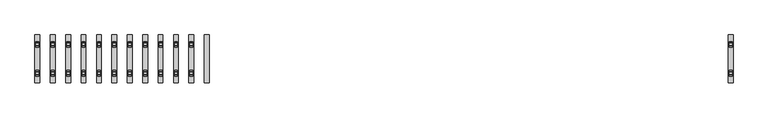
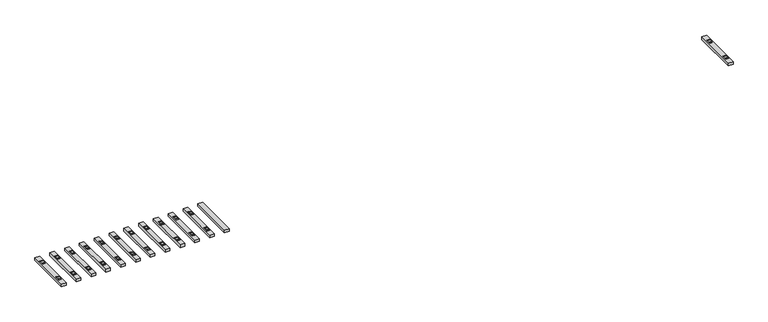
"""IFC4 building model written with IfcOpenShell, lengths in millimetres: railing geometry, Koleje."""

from ifc_helpers import new_model, si_unit, frame, origin, place, context, project, spatial, polyline, outline, extrude, source, transform, mapped, element, save


def railing_31aec477(model_context):
    return source(origin(), model_context, "Body", "SweptSolid", [
        extrude(outline(polyline([(35642.1796907, 27440.7955787), (35892.1796907, 27440.7955787), (35892.1796907, 24940.7955787), (35642.1796907, 24940.7955787), (35642.1796907, 27440.7955787)])), frame((0.0, 0.0, -150.0), z_axis=(0.0, 0.0, 1.0), x_axis=(1.0, 0.0, 0.0)), (0.0, 0.0, 1.0), 150.0),
        extrude(outline(polyline([(27095.2955787, 0.0), (26795.2955787, 0.0), (26795.2955787, 7.5), (26855.2955787, 15.0), (26870.2955787, 30.0), (26870.2955787, 15.0), (27020.2955787, 15.0), (27020.2955787, 30.0), (27035.2955787, 15.0), (27095.2955787, 7.5), (27095.2955787, 0.0)])), frame((34885.5130241, 0.0, 0.0), z_axis=(1.0, 0.0, 0.0), x_axis=(0.0, 1.0, 0.0)), (0.0, 0.0, 1.0), 150.0),
        extrude(outline(polyline([(25586.2955787, 0.0), (25286.2955787, 0.0), (25286.2955787, 7.5), (25346.2955787, 15.0), (25361.2955787, 30.0), (25361.2955787, 15.0), (25511.2955787, 15.0), (25511.2955787, 30.0), (25526.2955787, 15.0), (25586.2955787, 7.5), (25586.2955787, 0.0)])), frame((34885.5130241, 0.0, 0.0), z_axis=(1.0, 0.0, 0.0), x_axis=(0.0, 1.0, 0.0)), (0.0, 0.0, 1.0), 150.0),
        extrude(outline(polyline([(34835.5130241, 27440.7955787), (35085.5130241, 27440.7955787), (35085.5130241, 24940.7955787), (34835.5130241, 24940.7955787), (34835.5130241, 27440.7955787)])), frame((0.0, 0.0, -150.0), z_axis=(0.0, 0.0, 1.0), x_axis=(1.0, 0.0, 0.0)), (0.0, 0.0, 1.0), 150.0),
        extrude(outline(polyline([(27095.2955787, 0.0), (26795.2955787, 0.0), (26795.2955787, 7.5), (26855.2955787, 15.0), (26870.2955787, 30.0), (26870.2955787, 15.0), (27020.2955787, 15.0), (27020.2955787, 30.0), (27035.2955787, 15.0), (27095.2955787, 7.5), (27095.2955787, 0.0)])), frame((34078.8463574, 0.0, 0.0), z_axis=(1.0, 0.0, 0.0), x_axis=(0.0, 1.0, 0.0)), (0.0, 0.0, 1.0), 150.0),
        extrude(outline(polyline([(25586.2955787, 0.0), (25286.2955787, 0.0), (25286.2955787, 7.5), (25346.2955787, 15.0), (25361.2955787, 30.0), (25361.2955787, 15.0), (25511.2955787, 15.0), (25511.2955787, 30.0), (25526.2955787, 15.0), (25586.2955787, 7.5), (25586.2955787, 0.0)])), frame((34078.8463574, 0.0, 0.0), z_axis=(1.0, 0.0, 0.0), x_axis=(0.0, 1.0, 0.0)), (0.0, 0.0, 1.0), 150.0),
        extrude(outline(polyline([(34028.8463574, 27440.7955787), (34278.8463574, 27440.7955787), (34278.8463574, 24940.7955787), (34028.8463574, 24940.7955787), (34028.8463574, 27440.7955787)])), frame((0.0, 0.0, -150.0), z_axis=(0.0, 0.0, 1.0), x_axis=(1.0, 0.0, 0.0)), (0.0, 0.0, 1.0), 150.0),
        extrude(outline(polyline([(27095.2955787, 0.0), (26795.2955787, 0.0), (26795.2955787, 7.5), (26855.2955787, 15.0), (26870.2955787, 30.0), (26870.2955787, 15.0), (27020.2955787, 15.0), (27020.2955787, 30.0), (27035.2955787, 15.0), (27095.2955787, 7.5), (27095.2955787, 0.0)])), frame((33272.1796907, 0.0, 0.0), z_axis=(1.0, 0.0, 0.0), x_axis=(0.0, 1.0, 0.0)), (0.0, 0.0, 1.0), 150.0),
        extrude(outline(polyline([(25586.2955787, 0.0), (25286.2955787, 0.0), (25286.2955787, 7.5), (25346.2955787, 15.0), (25361.2955787, 30.0), (25361.2955787, 15.0), (25511.2955787, 15.0), (25511.2955787, 30.0), (25526.2955787, 15.0), (25586.2955787, 7.5), (25586.2955787, 0.0)])), frame((33272.1796907, 0.0, 0.0), z_axis=(1.0, 0.0, 0.0), x_axis=(0.0, 1.0, 0.0)), (0.0, 0.0, 1.0), 150.0),
        extrude(outline(polyline([(33222.1796907, 27440.7955787), (33472.1796907, 27440.7955787), (33472.1796907, 24940.7955787), (33222.1796907, 24940.7955787), (33222.1796907, 27440.7955787)])), frame((0.0, 0.0, -150.0), z_axis=(0.0, 0.0, 1.0), x_axis=(1.0, 0.0, 0.0)), (0.0, 0.0, 1.0), 150.0),
        extrude(outline(polyline([(27095.2955787, 0.0), (26795.2955787, 0.0), (26795.2955787, 7.5), (26855.2955787, 15.0), (26870.2955787, 30.0), (26870.2955787, 15.0), (27020.2955787, 15.0), (27020.2955787, 30.0), (27035.2955787, 15.0), (27095.2955787, 7.5), (27095.2955787, 0.0)])), frame((32465.5130241, 0.0, 0.0), z_axis=(1.0, 0.0, 0.0), x_axis=(0.0, 1.0, 0.0)), (0.0, 0.0, 1.0), 150.0),
        extrude(outline(polyline([(25586.2955787, 0.0), (25286.2955787, 0.0), (25286.2955787, 7.5), (25346.2955787, 15.0), (25361.2955787, 30.0), (25361.2955787, 15.0), (25511.2955787, 15.0), (25511.2955787, 30.0), (25526.2955787, 15.0), (25586.2955787, 7.5), (25586.2955787, 0.0)])), frame((32465.5130241, 0.0, 0.0), z_axis=(1.0, 0.0, 0.0), x_axis=(0.0, 1.0, 0.0)), (0.0, 0.0, 1.0), 150.0),
        extrude(outline(polyline([(32415.5130241, 27440.7955787), (32665.5130241, 27440.7955787), (32665.5130241, 24940.7955787), (32415.5130241, 24940.7955787), (32415.5130241, 27440.7955787)])), frame((0.0, 0.0, -150.0), z_axis=(0.0, 0.0, 1.0), x_axis=(1.0, 0.0, 0.0)), (0.0, 0.0, 1.0), 150.0),
        extrude(outline(polyline([(27095.2955787, 0.0), (26795.2955787, 0.0), (26795.2955787, 7.5), (26855.2955787, 15.0), (26870.2955787, 30.0), (26870.2955787, 15.0), (27020.2955787, 15.0), (27020.2955787, 30.0), (27035.2955787, 15.0), (27095.2955787, 7.5), (27095.2955787, 0.0)])), frame((31658.8463574, 0.0, 0.0), z_axis=(1.0, 0.0, 0.0), x_axis=(0.0, 1.0, 0.0)), (0.0, 0.0, 1.0), 150.0),
        extrude(outline(polyline([(25586.2955787, 0.0), (25286.2955787, 0.0), (25286.2955787, 7.5), (25346.2955787, 15.0), (25361.2955787, 30.0), (25361.2955787, 15.0), (25511.2955787, 15.0), (25511.2955787, 30.0), (25526.2955787, 15.0), (25586.2955787, 7.5), (25586.2955787, 0.0)])), frame((31658.8463574, 0.0, 0.0), z_axis=(1.0, 0.0, 0.0), x_axis=(0.0, 1.0, 0.0)), (0.0, 0.0, 1.0), 150.0),
        extrude(outline(polyline([(31608.8463574, 27440.7955787), (31858.8463574, 27440.7955787), (31858.8463574, 24940.7955787), (31608.8463574, 24940.7955787), (31608.8463574, 27440.7955787)])), frame((0.0, 0.0, -150.0), z_axis=(0.0, 0.0, 1.0), x_axis=(1.0, 0.0, 0.0)), (0.0, 0.0, 1.0), 150.0),
        extrude(outline(polyline([(27095.2955787, 0.0), (26795.2955787, 0.0), (26795.2955787, 7.5), (26855.2955787, 15.0), (26870.2955787, 30.0), (26870.2955787, 15.0), (27020.2955787, 15.0), (27020.2955787, 30.0), (27035.2955787, 15.0), (27095.2955787, 7.5), (27095.2955787, 0.0)])), frame((30852.1796907, 0.0, 0.0), z_axis=(1.0, 0.0, 0.0), x_axis=(0.0, 1.0, 0.0)), (0.0, 0.0, 1.0), 150.0),
        extrude(outline(polyline([(25586.2955787, 0.0), (25286.2955787, 0.0), (25286.2955787, 7.5), (25346.2955787, 15.0), (25361.2955787, 30.0), (25361.2955787, 15.0), (25511.2955787, 15.0), (25511.2955787, 30.0), (25526.2955787, 15.0), (25586.2955787, 7.5), (25586.2955787, 0.0)])), frame((30852.1796907, 0.0, 0.0), z_axis=(1.0, 0.0, 0.0), x_axis=(0.0, 1.0, 0.0)), (0.0, 0.0, 1.0), 150.0),
        extrude(outline(polyline([(30802.1796907, 27440.7955787), (31052.1796907, 27440.7955787), (31052.1796907, 24940.7955787), (30802.1796907, 24940.7955787), (30802.1796907, 27440.7955787)])), frame((0.0, 0.0, -150.0), z_axis=(0.0, 0.0, 1.0), x_axis=(1.0, 0.0, 0.0)), (0.0, 0.0, 1.0), 150.0),
        extrude(outline(polyline([(27095.2955787, 0.0), (26795.2955787, 0.0), (26795.2955787, 7.5), (26855.2955787, 15.0), (26870.2955787, 30.0), (26870.2955787, 15.0), (27020.2955787, 15.0), (27020.2955787, 30.0), (27035.2955787, 15.0), (27095.2955787, 7.5), (27095.2955787, 0.0)])), frame((30045.5130241, 0.0, 0.0), z_axis=(1.0, 0.0, 0.0), x_axis=(0.0, 1.0, 0.0)), (0.0, 0.0, 1.0), 150.0),
        extrude(outline(polyline([(25586.2955787, 0.0), (25286.2955787, 0.0), (25286.2955787, 7.5), (25346.2955787, 15.0), (25361.2955787, 30.0), (25361.2955787, 15.0), (25511.2955787, 15.0), (25511.2955787, 30.0), (25526.2955787, 15.0), (25586.2955787, 7.5), (25586.2955787, 0.0)])), frame((30045.5130241, 0.0, 0.0), z_axis=(1.0, 0.0, 0.0), x_axis=(0.0, 1.0, 0.0)), (0.0, 0.0, 1.0), 150.0),
        extrude(outline(polyline([(29995.5130241, 27440.7955787), (30245.5130241, 27440.7955787), (30245.5130241, 24940.7955787), (29995.5130241, 24940.7955787), (29995.5130241, 27440.7955787)])), frame((0.0, 0.0, -150.0), z_axis=(0.0, 0.0, 1.0), x_axis=(1.0, 0.0, 0.0)), (0.0, 0.0, 1.0), 150.0),
        extrude(outline(polyline([(27095.2955787, 0.0), (26795.2955787, 0.0), (26795.2955787, 7.5), (26855.2955787, 15.0), (26870.2955787, 30.0), (26870.2955787, 15.0), (27020.2955787, 15.0), (27020.2955787, 30.0), (27035.2955787, 15.0), (27095.2955787, 7.5), (27095.2955787, 0.0)])), frame((29238.8463574, 0.0, 0.0), z_axis=(1.0, 0.0, 0.0), x_axis=(0.0, 1.0, 0.0)), (0.0, 0.0, 1.0), 150.0),
        extrude(outline(polyline([(25586.2955787, 0.0), (25286.2955787, 0.0), (25286.2955787, 7.5), (25346.2955787, 15.0), (25361.2955787, 30.0), (25361.2955787, 15.0), (25511.2955787, 15.0), (25511.2955787, 30.0), (25526.2955787, 15.0), (25586.2955787, 7.5), (25586.2955787, 0.0)])), frame((29238.8463574, 0.0, 0.0), z_axis=(1.0, 0.0, 0.0), x_axis=(0.0, 1.0, 0.0)), (0.0, 0.0, 1.0), 150.0),
        extrude(outline(polyline([(29188.8463574, 27440.7955787), (29438.8463574, 27440.7955787), (29438.8463574, 24940.7955787), (29188.8463574, 24940.7955787), (29188.8463574, 27440.7955787)])), frame((0.0, 0.0, -150.0), z_axis=(0.0, 0.0, 1.0), x_axis=(1.0, 0.0, 0.0)), (0.0, 0.0, 1.0), 150.0),
        extrude(outline(polyline([(27095.2955787, 0.0), (26795.2955787, 0.0), (26795.2955787, 7.5), (26855.2955787, 15.0), (26870.2955787, 30.0), (26870.2955787, 15.0), (27020.2955787, 15.0), (27020.2955787, 30.0), (27035.2955787, 15.0), (27095.2955787, 7.5), (27095.2955787, 0.0)])), frame((28432.1796907, 0.0, 0.0), z_axis=(1.0, 0.0, 0.0), x_axis=(0.0, 1.0, 0.0)), (0.0, 0.0, 1.0), 150.0),
        extrude(outline(polyline([(25586.2955787, 0.0), (25286.2955787, 0.0), (25286.2955787, 7.5), (25346.2955787, 15.0), (25361.2955787, 30.0), (25361.2955787, 15.0), (25511.2955787, 15.0), (25511.2955787, 30.0), (25526.2955787, 15.0), (25586.2955787, 7.5), (25586.2955787, 0.0)])), frame((28432.1796907, 0.0, 0.0), z_axis=(1.0, 0.0, 0.0), x_axis=(0.0, 1.0, 0.0)), (0.0, 0.0, 1.0), 150.0),
        extrude(outline(polyline([(28382.1796907, 27440.7955787), (28632.1796907, 27440.7955787), (28632.1796907, 24940.7955787), (28382.1796907, 24940.7955787), (28382.1796907, 27440.7955787)])), frame((0.0, 0.0, -150.0), z_axis=(0.0, 0.0, 1.0), x_axis=(1.0, 0.0, 0.0)), (0.0, 0.0, 1.0), 150.0),
        extrude(outline(polyline([(27095.2955787, 0.0), (26795.2955787, 0.0), (26795.2955787, 7.5), (26855.2955787, 15.0), (26870.2955787, 30.0), (26870.2955787, 15.0), (27020.2955787, 15.0), (27020.2955787, 30.0), (27035.2955787, 15.0), (27095.2955787, 7.5), (27095.2955787, 0.0)])), frame((27625.5130241, 0.0, 0.0), z_axis=(1.0, 0.0, 0.0), x_axis=(0.0, 1.0, 0.0)), (0.0, 0.0, 1.0), 150.0),
        extrude(outline(polyline([(25586.2955787, 0.0), (25286.2955787, 0.0), (25286.2955787, 7.5), (25346.2955787, 15.0), (25361.2955787, 30.0), (25361.2955787, 15.0), (25511.2955787, 15.0), (25511.2955787, 30.0), (25526.2955787, 15.0), (25586.2955787, 7.5), (25586.2955787, 0.0)])), frame((27625.5130241, 0.0, 0.0), z_axis=(1.0, 0.0, 0.0), x_axis=(0.0, 1.0, 0.0)), (0.0, 0.0, 1.0), 150.0),
        extrude(outline(polyline([(27575.5130241, 27440.7955787), (27825.5130241, 27440.7955787), (27825.5130241, 24940.7955787), (27575.5130241, 24940.7955787), (27575.5130241, 27440.7955787)])), frame((0.0, 0.0, -150.0), z_axis=(0.0, 0.0, 1.0), x_axis=(1.0, 0.0, 0.0)), (0.0, 0.0, 1.0), 150.0),
        extrude(outline(polyline([(27095.2955787, 0.0), (26795.2955787, 0.0), (26795.2955787, 7.5), (26855.2955787, 15.0), (26870.2955787, 30.0), (26870.2955787, 15.0), (27020.2955787, 15.0), (27020.2955787, 30.0), (27035.2955787, 15.0), (27095.2955787, 7.5), (27095.2955787, 0.0)])), frame((63118.8463574, 0.0, 0.0), z_axis=(1.0, 0.0, 0.0), x_axis=(0.0, 1.0, 0.0)), (0.0, 0.0, 1.0), 150.0),
        extrude(outline(polyline([(25586.2955787, 0.0), (25286.2955787, 0.0), (25286.2955787, 7.5), (25346.2955787, 15.0), (25361.2955787, 30.0), (25361.2955787, 15.0), (25511.2955787, 15.0), (25511.2955787, 30.0), (25526.2955787, 15.0), (25586.2955787, 7.5), (25586.2955787, 0.0)])), frame((63118.8463574, 0.0, 0.0), z_axis=(1.0, 0.0, 0.0), x_axis=(0.0, 1.0, 0.0)), (0.0, 0.0, 1.0), 150.0),
        extrude(outline(polyline([(63068.8463574, 27440.7955787), (63318.8463574, 27440.7955787), (63318.8463574, 24940.7955787), (63068.8463574, 24940.7955787), (63068.8463574, 27440.7955787)])), frame((0.0, 0.0, -150.0), z_axis=(0.0, 0.0, 1.0), x_axis=(1.0, 0.0, 0.0)), (0.0, 0.0, 1.0), 150.0),
        extrude(outline(polyline([(27095.2955787, 0.0), (26795.2955787, 0.0), (26795.2955787, 7.5), (26855.2955787, 15.0), (26870.2955787, 30.0), (26870.2955787, 15.0), (27020.2955787, 15.0), (27020.2955787, 30.0), (27035.2955787, 15.0), (27095.2955787, 7.5), (27095.2955787, 0.0)])), frame((26818.8463574, 0.0, 0.0), z_axis=(1.0, 0.0, 0.0), x_axis=(0.0, 1.0, 0.0)), (0.0, 0.0, 1.0), 150.0),
        extrude(outline(polyline([(25586.2955787, 0.0), (25286.2955787, 0.0), (25286.2955787, 7.5), (25346.2955787, 15.0), (25361.2955787, 30.0), (25361.2955787, 15.0), (25511.2955787, 15.0), (25511.2955787, 30.0), (25526.2955787, 15.0), (25586.2955787, 7.5), (25586.2955787, 0.0)])), frame((26818.8463574, 0.0, 0.0), z_axis=(1.0, 0.0, 0.0), x_axis=(0.0, 1.0, 0.0)), (0.0, 0.0, 1.0), 150.0),
        extrude(outline(polyline([(26768.8463574, 27440.7955787), (27018.8463574, 27440.7955787), (27018.8463574, 24940.7955787), (26768.8463574, 24940.7955787), (26768.8463574, 27440.7955787)])), frame((0.0, 0.0, -150.0), z_axis=(0.0, 0.0, 1.0), x_axis=(1.0, 0.0, 0.0)), (0.0, 0.0, 1.0), 150.0),
    ])


if __name__ == "__main__":
    model = new_model("IFC4")
    model_context = context("Model", 3, world=origin())
    ifc_project = project(units=[si_unit("LENGTHUNIT", "METRE", prefix="MILLI")], contexts=[model_context])
    site = spatial("IfcSite", under=ifc_project)
    building = spatial("IfcBuilding", under=site)
    placement = place(None, origin())
    railing_shape = railing_31aec477(model_context)
    element("IfcRailing", 1, ObjectType="Koleje", at=placement, inside=building, context=model_context, shape_type="MappedRepresentation", body=[
        mapped(railing_shape, transform((0.0, 0.0, 0.0), x_axis=(1.0, 0.0, 0.0), y_axis=(0.0, 1.0, 0.0), z_axis=(0.0, 0.0, 1.0))),
    ])
    save(model, "model.ifc")
